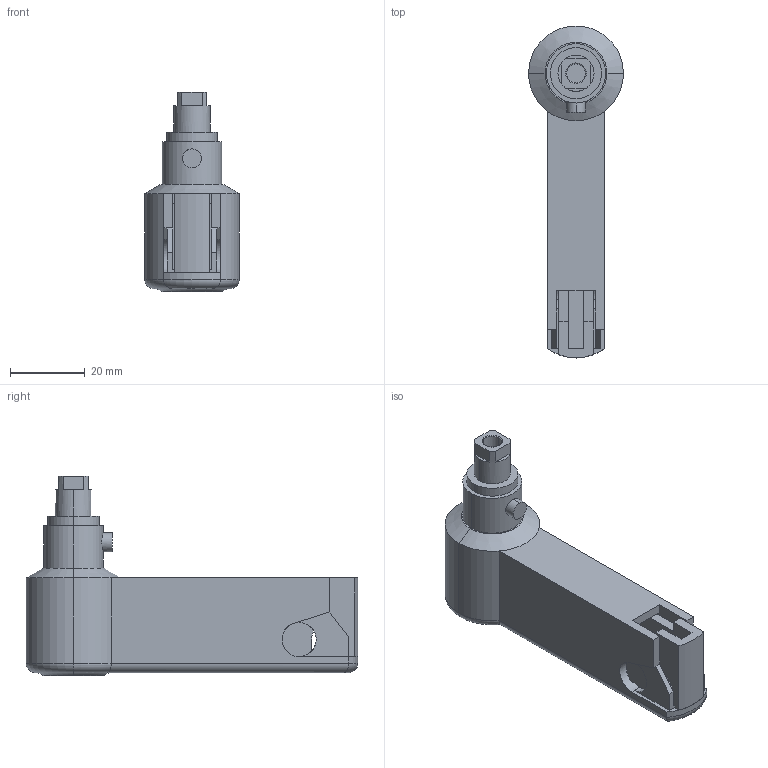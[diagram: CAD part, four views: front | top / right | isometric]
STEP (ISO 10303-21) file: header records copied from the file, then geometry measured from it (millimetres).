
FILE_DESCRIPTION (( 'STEP AP203' ), '1' );
FILE_NAME ('cwhpto.STEP', '2012-02-21T16:14:53', ( 'Hoffman User' ), ( 'Hoffman Enclosures' ), 'SwSTEP 2.0', 'SolidWorks 2010', '' );
FILE_SCHEMA (( 'CONFIG_CONTROL_DESIGN' ));
Length unit declared in the file: inch
Products named in the file (1): cwhpto
Bounding box: 25.4 x 88.9 x 53.31 mm (x, y, z)
Volume: 37026 mm3; surface area: 12370.2 mm2
Topology: 2 solids, 2 shells, 88 faces, 227 edges, 146 vertices
Faces by surface type: plane 58, cylinder 20, torus 6, cone 4
Entity records: 2863 total; most frequent: CARTESIAN_POINT 584, DIRECTION 464, ORIENTED_EDGE 454, EDGE_CURVE 227, VECTOR 156, LINE 156, AXIS2_PLACEMENT_3D 154, VERTEX_POINT 146
